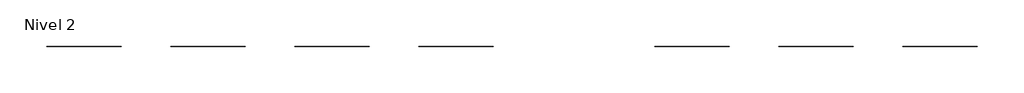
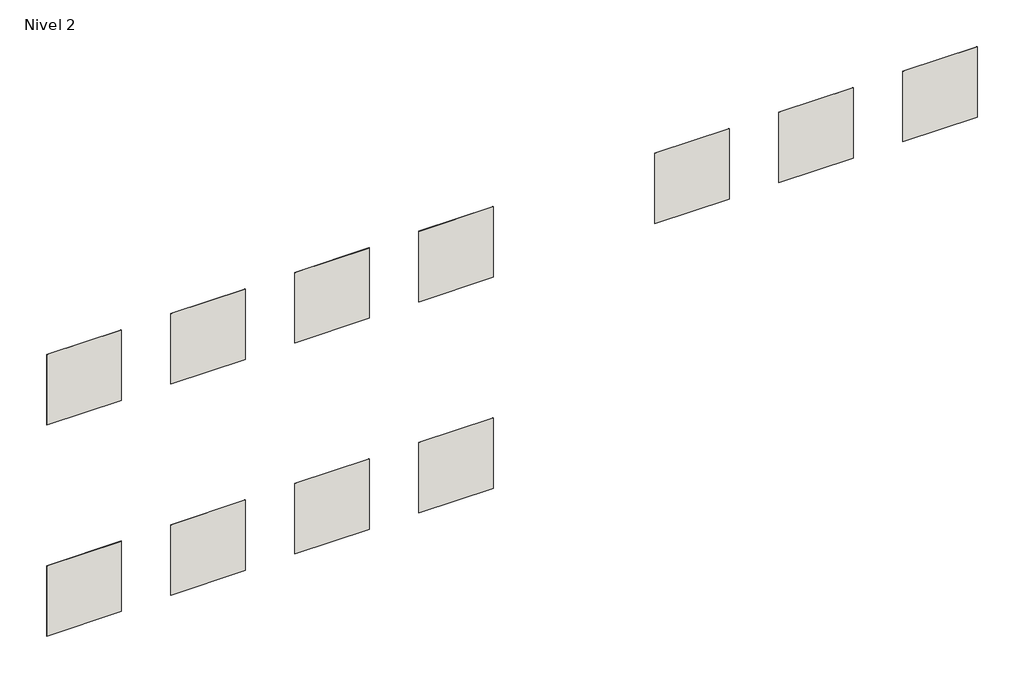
# One storey: 11 walls.
"""IFC4 building model written with IfcOpenShell, lengths in millimetres."""

from ifc_helpers import new_model, si_unit, frame, origin, place, context, project, spatial, polyline, outline, extrude, element, save

model = new_model("IFC4")

# Units and contexts
model_context = context("Model", 3, world=origin())
ifc_project = project(units=[si_unit("LENGTHUNIT", "METRE", prefix="MILLI")], contexts=[model_context])

# Site, building, storey
site = spatial("IfcSite", under=ifc_project)
building = spatial("IfcBuilding", under=site)
storey = spatial("IfcBuildingStorey", under=building, Name="Nivel 2", Elevation=3000.0)

# Walls
placement = place(None, origin())
element("IfcWall", 1, ObjectType="VIVES CEPPO DI GRE CEMENTO 60x60", at=placement, inside=storey, context=model_context, shape_type="SweptSolid", body=[
    extrude(outline(polyline([(1746.5807151, -5691.5306872), (1146.5807151, -5691.5306872), (1146.5807151, -5690.5306872), (1746.5807151, -5690.5306872), (1746.5807151, -5691.5306872)])), frame((0.0, 0.0, 900.0), z_axis=(0.0, 0.0, 1.0), x_axis=(1.0, 0.0, 0.0)), (0.0, 0.0, 1.0), 600.0),
])
element("IfcWall", 2, ObjectType="VIVES CEPPO DI GRE GRIS 60x60", at=placement, inside=storey, context=model_context, shape_type="SweptSolid", body=[
    extrude(outline(polyline([(2746.5807151, -5691.5306872), (2146.5807151, -5691.5306872), (2146.5807151, -5690.5306872), (2746.5807151, -5690.5306872), (2746.5807151, -5691.5306872)])), frame((0.0, 0.0, 900.0), z_axis=(0.0, 0.0, 1.0), x_axis=(1.0, 0.0, 0.0)), (0.0, 0.0, 1.0), 600.0),
])
element("IfcWall", 3, ObjectType="VIVES CEPPO DI GRE MARFIL 60x60", at=placement, inside=storey, context=model_context, shape_type="SweptSolid", body=[
    extrude(outline(polyline([(3746.5807151, -5691.5306872), (3146.5807151, -5691.5306872), (3146.5807151, -5690.5306872), (3746.5807151, -5690.5306872), (3746.5807151, -5691.5306872)])), frame((0.0, 0.0, 900.0), z_axis=(0.0, 0.0, 1.0), x_axis=(1.0, 0.0, 0.0)), (0.0, 0.0, 1.0), 600.0),
])
element("IfcWall", 4, ObjectType="VIVES ORIYAS NATURAL 60x60", at=placement, inside=storey, context=model_context, shape_type="SweptSolid", body=[
    extrude(outline(polyline([(4746.5807151, -5691.5306872), (4146.5807151, -5691.5306872), (4146.5807151, -5690.5306872), (4746.5807151, -5690.5306872), (4746.5807151, -5691.5306872)])), frame((0.0, 0.0, 900.0), z_axis=(0.0, 0.0, 1.0), x_axis=(1.0, 0.0, 0.0)), (0.0, 0.0, 1.0), 600.0),
])
element("IfcWall", 5, ObjectType="VIVES CEPPO DI GRE-R CEMENTO 59.3x59.3", at=placement, inside=storey, context=model_context, shape_type="SweptSolid", body=[
    extrude(outline(polyline([(1746.5807151, -5691.5306872), (1146.5807151, -5691.5306872), (1146.5807151, -5690.5306872), (1746.5807151, -5690.5306872), (1746.5807151, -5691.5306872)])), frame((0.0, 0.0, 2700.0), z_axis=(0.0, 0.0, 1.0), x_axis=(1.0, 0.0, 0.0)), (0.0, 0.0, 1.0), 600.0),
])
element("IfcWall", 6, ObjectType="VIVES CEPPO DI GRE-R GRIS 59.3x59.3", at=placement, inside=storey, context=model_context, shape_type="SweptSolid", body=[
    extrude(outline(polyline([(2746.5807151, -5691.5306872), (2146.5807151, -5691.5306872), (2146.5807151, -5690.5306872), (2746.5807151, -5690.5306872), (2746.5807151, -5691.5306872)])), frame((0.0, 0.0, 2700.0), z_axis=(0.0, 0.0, 1.0), x_axis=(1.0, 0.0, 0.0)), (0.0, 0.0, 1.0), 600.0),
])
element("IfcWall", 7, ObjectType="VIVES CEPPO DI GRE-R MARFIL 59.3x59.3", at=placement, inside=storey, context=model_context, shape_type="SweptSolid", body=[
    extrude(outline(polyline([(3746.5807151, -5691.5306872), (3146.5807151, -5691.5306872), (3146.5807151, -5690.5306872), (3746.5807151, -5690.5306872), (3746.5807151, -5691.5306872)])), frame((0.0, 0.0, 2700.0), z_axis=(0.0, 0.0, 1.0), x_axis=(1.0, 0.0, 0.0)), (0.0, 0.0, 1.0), 600.0),
])
element("IfcWall", 8, ObjectType="VIVES ORIYAS-R NATURAL 59.3x59.3", at=placement, inside=storey, context=model_context, shape_type="SweptSolid", body=[
    extrude(outline(polyline([(4746.5807151, -5691.5306872), (4146.5807151, -5691.5306872), (4146.5807151, -5690.5306872), (4746.5807151, -5690.5306872), (4746.5807151, -5691.5306872)])), frame((0.0, 0.0, 2700.0), z_axis=(0.0, 0.0, 1.0), x_axis=(1.0, 0.0, 0.0)), (0.0, 0.0, 1.0), 600.0),
])
element("IfcWall", 9, ObjectType="VIVES MOS. AYMARAS CEMENTO 24.2x39.5", at=placement, inside=storey, context=model_context, shape_type="SweptSolid", body=[
    extrude(outline(polyline([(6646.5807151, -5691.5306872), (6046.5807151, -5691.5306872), (6046.5807151, -5690.5306872), (6646.5807151, -5690.5306872), (6646.5807151, -5691.5306872)])), frame((0.0, 0.0, 2700.0), z_axis=(0.0, 0.0, 1.0), x_axis=(1.0, 0.0, 0.0)), (0.0, 0.0, 1.0), 600.0),
])
element("IfcWall", 10, ObjectType="VIVES MOS. AYMARAS GRIS 24.2x39.5", at=placement, inside=storey, context=model_context, shape_type="SweptSolid", body=[
    extrude(outline(polyline([(7646.5807151, -5691.5306872), (7046.5807151, -5691.5306872), (7046.5807151, -5690.5306872), (7646.5807151, -5690.5306872), (7646.5807151, -5691.5306872)])), frame((0.0, 0.0, 2700.0), z_axis=(0.0, 0.0, 1.0), x_axis=(1.0, 0.0, 0.0)), (0.0, 0.0, 1.0), 600.0),
])
element("IfcWall", 11, ObjectType="VIVES MOS. AYMARAS MARFIL 24.2x39.5", at=placement, inside=storey, context=model_context, shape_type="SweptSolid", body=[
    extrude(outline(polyline([(8646.5807151, -5691.5306872), (8046.5807151, -5691.5306872), (8046.5807151, -5690.5306872), (8646.5807151, -5690.5306872), (8646.5807151, -5691.5306872)])), frame((0.0, 0.0, 2700.0), z_axis=(0.0, 0.0, 1.0), x_axis=(1.0, 0.0, 0.0)), (0.0, 0.0, 1.0), 600.0),
])

save(model, "model.ifc")
